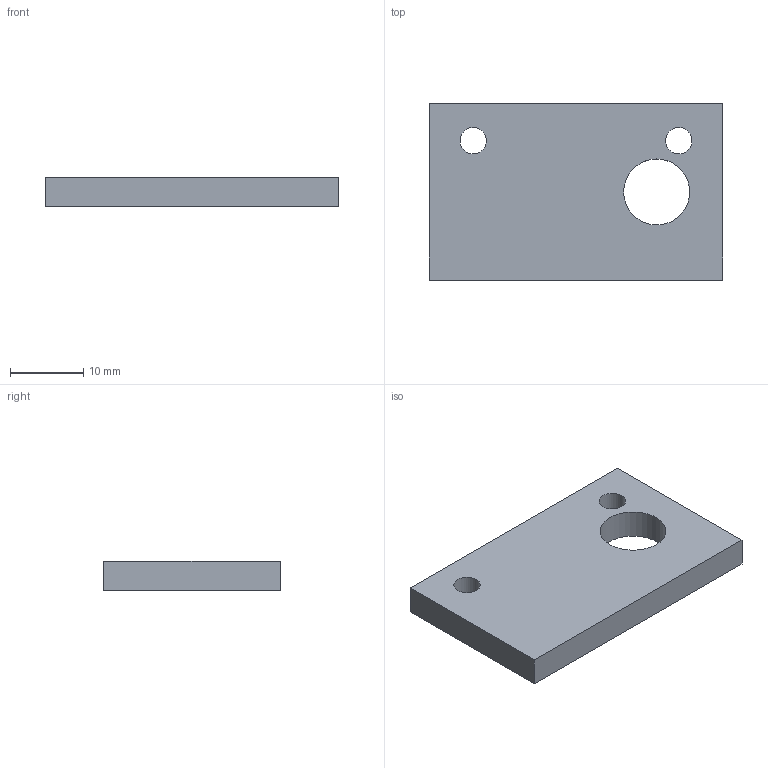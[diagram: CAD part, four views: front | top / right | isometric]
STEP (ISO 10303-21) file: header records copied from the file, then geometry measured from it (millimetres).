
FILE_DESCRIPTION(('FreeCAD Model'),'2;1');
FILE_NAME('Open CASCADE Shape Model','2026-11-06T11:24:16',('FreeCAD'),( 'FreeCAD'),'Open CASCADE STEP processor 7.8','FreeCAD','Unknown');
FILE_SCHEMA(('AUTOMOTIVE_DESIGN { 1 0 10303 214 1 1 1 1 }'));
Length unit declared in the file: millimetre
Products named in the file (1): Open CASCADE STEP translator 7.8 20
Bounding box: 40 x 24 x 4 mm (x, y, z)
Volume: 3504.1 mm3; surface area: 2467.6 mm2
Topology: 1 solids, 1 shells, 9 faces, 21 edges, 14 vertices
Faces by surface type: plane 6, cylinder 3
Full cylindrical faces by diameter (mm): 3.6 x2, 9 x1
Entity records: 283 total; most frequent: DIRECTION 47, CARTESIAN_POINT 45, ORIENTED_EDGE 42, EDGE_CURVE 21, AXIS2_PLACEMENT_3D 16, FACE_BOUND 15, EDGE_LOOP 15, LINE 15
